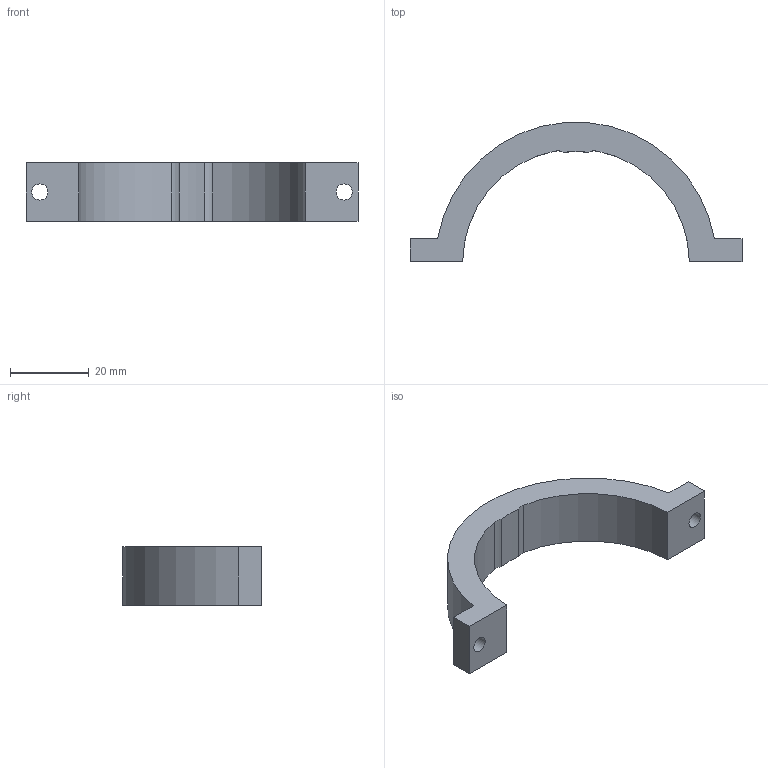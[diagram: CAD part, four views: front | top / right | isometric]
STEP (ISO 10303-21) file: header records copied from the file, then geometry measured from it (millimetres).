
FILE_DESCRIPTION(/* description */ ('STEP AP214'),/* implementation_level */ '2;1');
FILE_NAME(/* name */ '',/* time_stamp */ '2026-04-22T18:42:46+08:00',/* author */ ('lbx20'),/* organization */ (''),/* preprocessor_version */ 'ST-DEVELOPER v20.1',/* originating_system */ 'Autodesk Inventor 2026',/* authorisation */ '');
FILE_SCHEMA (('AUTOMOTIVE_DESIGN { 1 0 10303 214 3 1 1 }'));
Length unit declared in the file: millimetre
Products named in the file (1): 物镜架改下
Bounding box: 84.1 x 35.19 x 14.7 mm (x, y, z)
Volume: 11173.3 mm3; surface area: 5187.9 mm2
Topology: 1 solids, 1 shells, 16 faces, 42 edges, 28 vertices
Faces by surface type: plane 8, cylinder 8
Full cylindrical faces by diameter (mm): 4.1 x2
Entity records: 553 total; most frequent: DIRECTION 92, CARTESIAN_POINT 87, ORIENTED_EDGE 84, EDGE_CURVE 42, AXIS2_PLACEMENT_3D 33, VERTEX_POINT 28, LINE 26, VECTOR 26
